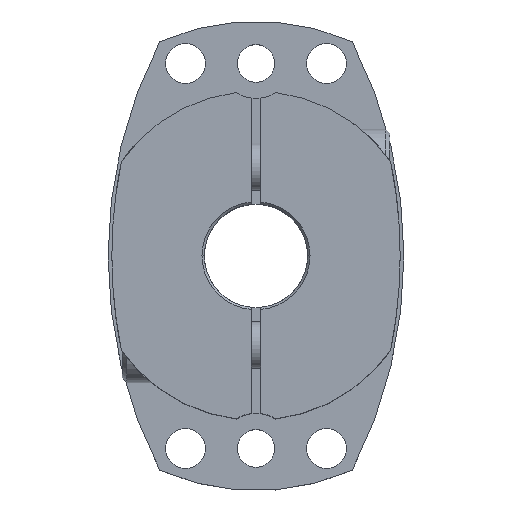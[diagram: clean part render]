
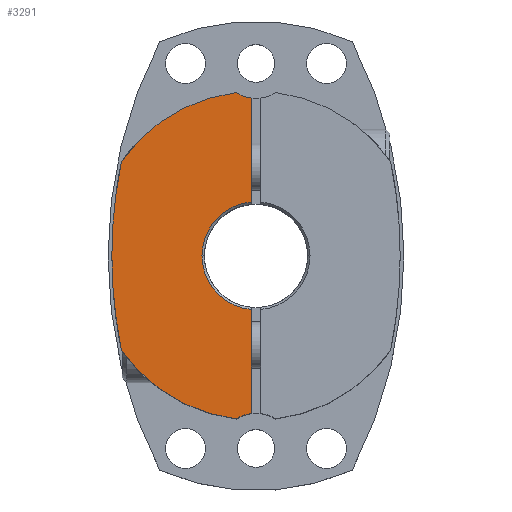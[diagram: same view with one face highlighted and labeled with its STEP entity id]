
A CAD part, top view. The second image highlights one B-rep face of the part: STEP entity #3291.
In plain terms, the highlighted planar face has unit normal (0, 0, 1).
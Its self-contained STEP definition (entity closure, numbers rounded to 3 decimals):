
#227=CARTESIAN_POINT('',(-11.5,0.,31.0));
#228=VERTEX_POINT('',#227);
#244=CARTESIAN_POINT('',(-1.0,11.456,31.0));
#245=VERTEX_POINT('',#244);
#259=CARTESIAN_POINT('',(0.0,0.0,31.0));
#260=DIRECTION('',(0.0,0.0,1.0));
#261=DIRECTION('',(-1.0,0.0,0.0));
#262=AXIS2_PLACEMENT_3D('',#259,#260,#261);
#263=CIRCLE('',#262,11.5);
#264=EDGE_CURVE('',#245,#228,#263,.T.);
#942=CARTESIAN_POINT('',(-30.7,0.,31.0));
#943=VERTEX_POINT('',#942);
#952=CARTESIAN_POINT('',(-28.638,20.121,31.0));
#953=VERTEX_POINT('',#952);
#954=CARTESIAN_POINT('',(68.5,0.,31.0));
#955=DIRECTION('',(0.0,0.0,-1.0));
#956=DIRECTION('',(1.0,0.0,0.0));
#957=AXIS2_PLACEMENT_3D('',#954,#955,#956);
#958=CIRCLE('',#957,99.2);
#959=EDGE_CURVE('',#943,#953,#958,.T.);
#2290=CARTESIAN_POINT('',(-28.638,-20.121,31.0));
#2291=VERTEX_POINT('',#2290);
#2298=CARTESIAN_POINT('',(68.5,0.,31.0));
#2299=DIRECTION('',(0.0,0.0,-1.0));
#2300=DIRECTION('',(1.0,0.0,0.0));
#2301=AXIS2_PLACEMENT_3D('',#2298,#2299,#2300);
#2302=CIRCLE('',#2301,99.2);
#2303=EDGE_CURVE('',#2291,#943,#2302,.T.);
#2593=CARTESIAN_POINT('',(-4.15,34.753,31.0));
#2594=VERTEX_POINT('',#2593);
#2595=CARTESIAN_POINT('',(0.,0.,31.0));
#2596=DIRECTION('',(0.0,0.0,-1.0));
#2597=DIRECTION('',(1.0,0.0,0.0));
#2598=AXIS2_PLACEMENT_3D('',#2595,#2596,#2597);
#2599=CIRCLE('',#2598,35.);
#2600=EDGE_CURVE('',#953,#2594,#2599,.T.);
#2936=CARTESIAN_POINT('',(-1.0,-11.456,31.0));
#2937=VERTEX_POINT('',#2936);
#2938=CARTESIAN_POINT('',(0.0,0.0,31.0));
#2939=DIRECTION('',(0.0,0.0,1.0));
#2940=DIRECTION('',(-1.0,0.0,0.0));
#2941=AXIS2_PLACEMENT_3D('',#2938,#2939,#2940);
#2942=CIRCLE('',#2941,11.5);
#2943=EDGE_CURVE('',#228,#2937,#2942,.T.);
#2968=CARTESIAN_POINT('',(-1.0,-33.567,31.0));
#2969=VERTEX_POINT('',#2968);
#2970=CARTESIAN_POINT('',(-1.0,-33.567,31.0));
#2971=DIRECTION('',(0.0,1.0,0.0));
#2972=VECTOR('',#2971,22.111);
#2973=LINE('',#2970,#2972);
#2974=EDGE_CURVE('',#2969,#2937,#2973,.T.);
#3049=CARTESIAN_POINT('',(-1.0,33.567,31.0));
#3050=VERTEX_POINT('',#3049);
#3057=CARTESIAN_POINT('',(-1.0,11.456,31.0));
#3058=DIRECTION('',(0.0,1.0,0.0));
#3059=VECTOR('',#3058,22.111);
#3060=LINE('',#3057,#3059);
#3061=EDGE_CURVE('',#245,#3050,#3060,.T.);
#3126=CARTESIAN_POINT('',(-4.15,-34.753,31.0));
#3127=VERTEX_POINT('',#3126);
#3128=CARTESIAN_POINT('',(0.,-41.,31.0));
#3129=DIRECTION('',(0.0,0.0,-1.0));
#3130=DIRECTION('',(1.0,0.0,0.0));
#3131=AXIS2_PLACEMENT_3D('',#3128,#3129,#3130);
#3132=CIRCLE('',#3131,7.5);
#3133=EDGE_CURVE('',#3127,#2969,#3132,.T.);
#3262=CARTESIAN_POINT('',(0.,0.,31.0));
#3263=DIRECTION('',(0.0,0.0,1.0));
#3264=DIRECTION('',(1.0,0.0,0.0));
#3265=AXIS2_PLACEMENT_3D('',#3262,#3263,#3264);
#3266=PLANE('',#3265);
#3267=ORIENTED_EDGE('',*,*,#264,.F.);
#3268=ORIENTED_EDGE('',*,*,#3061,.T.);
#3269=CARTESIAN_POINT('',(0.,41.,31.0));
#3270=DIRECTION('',(0.0,0.0,-1.0));
#3271=DIRECTION('',(1.0,0.0,0.0));
#3272=AXIS2_PLACEMENT_3D('',#3269,#3270,#3271);
#3273=CIRCLE('',#3272,7.5);
#3274=EDGE_CURVE('',#3050,#2594,#3273,.T.);
#3275=ORIENTED_EDGE('',*,*,#3274,.T.);
#3276=ORIENTED_EDGE('',*,*,#2600,.F.);
#3277=ORIENTED_EDGE('',*,*,#959,.F.);
#3278=ORIENTED_EDGE('',*,*,#2303,.F.);
#3279=CARTESIAN_POINT('',(0.,0.,31.0));
#3280=DIRECTION('',(0.0,0.0,-1.0));
#3281=DIRECTION('',(1.0,0.0,0.0));
#3282=AXIS2_PLACEMENT_3D('',#3279,#3280,#3281);
#3283=CIRCLE('',#3282,35.);
#3284=EDGE_CURVE('',#3127,#2291,#3283,.T.);
#3285=ORIENTED_EDGE('',*,*,#3284,.F.);
#3286=ORIENTED_EDGE('',*,*,#3133,.T.);
#3287=ORIENTED_EDGE('',*,*,#2974,.T.);
#3288=ORIENTED_EDGE('',*,*,#2943,.F.);
#3289=EDGE_LOOP('',(#3267,#3268,#3275,#3276,#3277,#3278,#3285,#3286,#3287,#3288));
#3290=FACE_OUTER_BOUND('',#3289,.T.);
#3291=ADVANCED_FACE('',(#3290),#3266,.T.);
